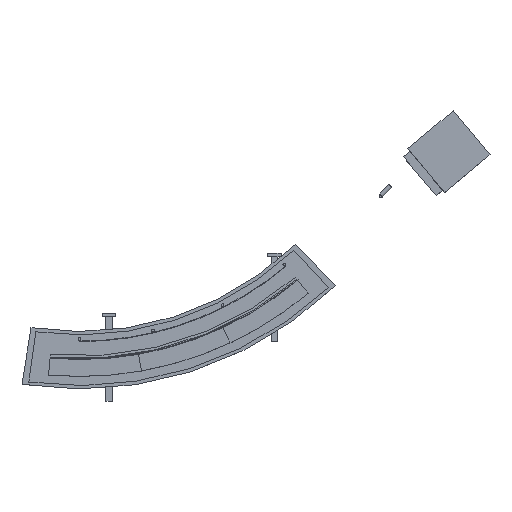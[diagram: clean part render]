
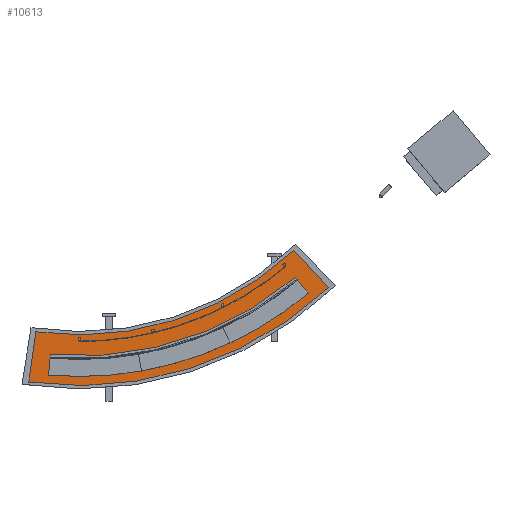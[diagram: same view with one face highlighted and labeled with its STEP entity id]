
A CAD part, top view. The second image highlights one B-rep face of the part: STEP entity #10613.
In plain terms, the highlighted planar face has unit normal (0, 0, 1).
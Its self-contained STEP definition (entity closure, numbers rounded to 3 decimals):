
#10495 = EDGE_CURVE('',#10496,#10498,#10500,.T.);
#10496 = VERTEX_POINT('',#10497);
#10497 = CARTESIAN_POINT('',(-300.614,-2138.979,-80.));
#10498 = VERTEX_POINT('',#10499);
#10499 = CARTESIAN_POINT('',(1473.116,-1579.724,-80.
    ));
#10500 = SURFACE_CURVE('',#10501,(#10506,#10518),.PCURVE_S1.);
#10501 = CIRCLE('',#10502,2160.);
#10502 = AXIS2_PLACEMENT_3D('',#10503,#10504,#10505);
#10503 = CARTESIAN_POINT('',(0.,0.,-80.));
#10504 = DIRECTION('',(0.,0.,1.));
#10505 = DIRECTION('',(-0.139,-0.99,0.));
#10506 = PCURVE('',#10507,#10512);
#10507 = CYLINDRICAL_SURFACE('',#10508,2160.);
#10508 = AXIS2_PLACEMENT_3D('',#10509,#10510,#10511);
#10509 = CARTESIAN_POINT('',(0.,0.,-140.));
#10510 = DIRECTION('',(0.,0.,1.));
#10511 = DIRECTION('',(-0.139,-0.99,0.));
#10512 = DEFINITIONAL_REPRESENTATION('',(#10513),#10517);
#10513 = LINE('',#10514,#10515);
#10514 = CARTESIAN_POINT('',(0.,60.));
#10515 = VECTOR('',#10516,1.);
#10516 = DIRECTION('',(1.,0.));
#10517 = ( GEOMETRIC_REPRESENTATION_CONTEXT(2) 
PARAMETRIC_REPRESENTATION_CONTEXT() REPRESENTATION_CONTEXT('2D SPACE',''
  ) );
#10518 = PCURVE('',#10519,#10524);
#10519 = PLANE('',#10520);
#10520 = AXIS2_PLACEMENT_3D('',#10521,#10522,#10523);
#10521 = CARTESIAN_POINT('',(0.,0.,-80.));
#10522 = DIRECTION('',(0.,0.,1.));
#10523 = DIRECTION('',(-0.139,-0.99,0.));
#10524 = DEFINITIONAL_REPRESENTATION('',(#10525),#10529);
#10525 = CIRCLE('',#10526,2160.);
#10526 = AXIS2_PLACEMENT_2D('',#10527,#10528);
#10527 = CARTESIAN_POINT('',(0.,0.));
#10528 = DIRECTION('',(1.,0.));
#10529 = ( GEOMETRIC_REPRESENTATION_CONTEXT(2) 
PARAMETRIC_REPRESENTATION_CONTEXT() REPRESENTATION_CONTEXT('2D SPACE',''
  ) );
#10547 = PLANE('',#10548);
#10548 = AXIS2_PLACEMENT_3D('',#10549,#10550,#10551);
#10549 = CARTESIAN_POINT('',(0.,0.,-140.));
#10550 = DIRECTION('',(-0.99,0.139,0.));
#10551 = DIRECTION('',(-0.139,-0.99,0.));
#10602 = PLANE('',#10603);
#10603 = AXIS2_PLACEMENT_3D('',#10604,#10605,#10606);
#10604 = CARTESIAN_POINT('',(0.,0.,-140.));
#10605 = DIRECTION('',(-0.731,-0.682,0.));
#10606 = DIRECTION('',(0.682,-0.731,0.));
#10613 = ADVANCED_FACE('',(#10614),#10519,.T.);
#10614 = FACE_BOUND('',#10615,.T.);
#10615 = EDGE_LOOP('',(#10616,#10617,#10640,#10669));
#10616 = ORIENTED_EDGE('',*,*,#10495,.T.);
#10617 = ORIENTED_EDGE('',*,*,#10618,.F.);
#10618 = EDGE_CURVE('',#10619,#10498,#10621,.T.);
#10619 = VERTEX_POINT('',#10620);
#10620 = CARTESIAN_POINT('',(1268.517,-1360.318,-80.
    ));
#10621 = SURFACE_CURVE('',#10622,(#10626,#10633),.PCURVE_S1.);
#10622 = LINE('',#10623,#10624);
#10623 = CARTESIAN_POINT('',(0.,0.,-80.));
#10624 = VECTOR('',#10625,1.);
#10625 = DIRECTION('',(0.682,-0.731,0.));
#10626 = PCURVE('',#10519,#10627);
#10627 = DEFINITIONAL_REPRESENTATION('',(#10628),#10632);
#10628 = LINE('',#10629,#10630);
#10629 = CARTESIAN_POINT('',(0.,0.));
#10630 = VECTOR('',#10631,1.);
#10631 = DIRECTION('',(0.629,0.777));
#10632 = ( GEOMETRIC_REPRESENTATION_CONTEXT(2) 
PARAMETRIC_REPRESENTATION_CONTEXT() REPRESENTATION_CONTEXT('2D SPACE',''
  ) );
#10633 = PCURVE('',#10602,#10634);
#10634 = DEFINITIONAL_REPRESENTATION('',(#10635),#10639);
#10635 = LINE('',#10636,#10637);
#10636 = CARTESIAN_POINT('',(0.,60.));
#10637 = VECTOR('',#10638,1.);
#10638 = DIRECTION('',(1.,0.));
#10639 = ( GEOMETRIC_REPRESENTATION_CONTEXT(2) 
PARAMETRIC_REPRESENTATION_CONTEXT() REPRESENTATION_CONTEXT('2D SPACE',''
  ) );
#10640 = ORIENTED_EDGE('',*,*,#10641,.F.);
#10641 = EDGE_CURVE('',#10642,#10619,#10644,.T.);
#10642 = VERTEX_POINT('',#10643);
#10643 = CARTESIAN_POINT('',(-258.862,-1841.899,-80.));
#10644 = SURFACE_CURVE('',#10645,(#10650,#10657),.PCURVE_S1.);
#10645 = CIRCLE('',#10646,1860.);
#10646 = AXIS2_PLACEMENT_3D('',#10647,#10648,#10649);
#10647 = CARTESIAN_POINT('',(0.,0.,-80.));
#10648 = DIRECTION('',(0.,0.,1.));
#10649 = DIRECTION('',(-0.139,-0.99,0.));
#10650 = PCURVE('',#10519,#10651);
#10651 = DEFINITIONAL_REPRESENTATION('',(#10652),#10656);
#10652 = CIRCLE('',#10653,1860.);
#10653 = AXIS2_PLACEMENT_2D('',#10654,#10655);
#10654 = CARTESIAN_POINT('',(0.,0.));
#10655 = DIRECTION('',(1.,0.));
#10656 = ( GEOMETRIC_REPRESENTATION_CONTEXT(2) 
PARAMETRIC_REPRESENTATION_CONTEXT() REPRESENTATION_CONTEXT('2D SPACE',''
  ) );
#10657 = PCURVE('',#10658,#10663);
#10658 = CYLINDRICAL_SURFACE('',#10659,1860.);
#10659 = AXIS2_PLACEMENT_3D('',#10660,#10661,#10662);
#10660 = CARTESIAN_POINT('',(0.,0.,-140.));
#10661 = DIRECTION('',(0.,0.,1.));
#10662 = DIRECTION('',(-0.139,-0.99,0.));
#10663 = DEFINITIONAL_REPRESENTATION('',(#10664),#10668);
#10664 = LINE('',#10665,#10666);
#10665 = CARTESIAN_POINT('',(0.,60.));
#10666 = VECTOR('',#10667,1.);
#10667 = DIRECTION('',(1.,0.));
#10668 = ( GEOMETRIC_REPRESENTATION_CONTEXT(2) 
PARAMETRIC_REPRESENTATION_CONTEXT() REPRESENTATION_CONTEXT('2D SPACE',''
  ) );
#10669 = ORIENTED_EDGE('',*,*,#10670,.T.);
#10670 = EDGE_CURVE('',#10642,#10496,#10671,.T.);
#10671 = SURFACE_CURVE('',#10672,(#10676,#10683),.PCURVE_S1.);
#10672 = LINE('',#10673,#10674);
#10673 = CARTESIAN_POINT('',(0.,0.,-80.));
#10674 = VECTOR('',#10675,1.);
#10675 = DIRECTION('',(-0.139,-0.99,0.));
#10676 = PCURVE('',#10519,#10677);
#10677 = DEFINITIONAL_REPRESENTATION('',(#10678),#10682);
#10678 = LINE('',#10679,#10680);
#10679 = CARTESIAN_POINT('',(0.,0.));
#10680 = VECTOR('',#10681,1.);
#10681 = DIRECTION('',(1.,0.));
#10682 = ( GEOMETRIC_REPRESENTATION_CONTEXT(2) 
PARAMETRIC_REPRESENTATION_CONTEXT() REPRESENTATION_CONTEXT('2D SPACE',''
  ) );
#10683 = PCURVE('',#10547,#10684);
#10684 = DEFINITIONAL_REPRESENTATION('',(#10685),#10689);
#10685 = LINE('',#10686,#10687);
#10686 = CARTESIAN_POINT('',(0.,60.));
#10687 = VECTOR('',#10688,1.);
#10688 = DIRECTION('',(1.,0.));
#10689 = ( GEOMETRIC_REPRESENTATION_CONTEXT(2) 
PARAMETRIC_REPRESENTATION_CONTEXT() REPRESENTATION_CONTEXT('2D SPACE',''
  ) );
